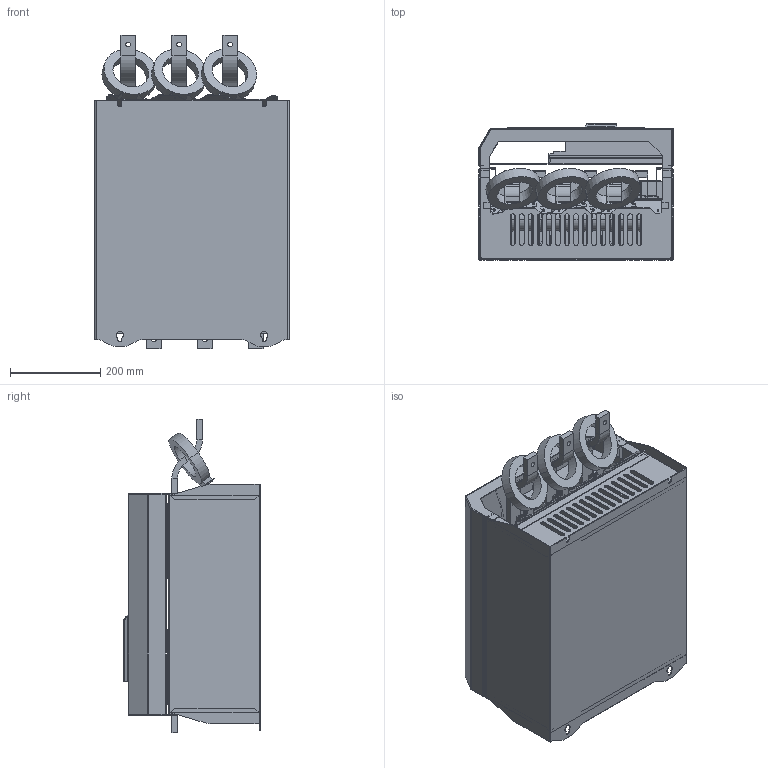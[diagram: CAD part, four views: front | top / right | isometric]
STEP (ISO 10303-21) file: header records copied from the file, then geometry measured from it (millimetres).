
FILE_DESCRIPTION (( 'STEP AP214' ), '1' );
FILE_NAME ('EMX3 G4C General Assembly, Simplified, Bot-Top, 21NOV12.STEP', '2012-11-27T00:54:45', ( '' ), ( '' ), 'SwSTEP 2.0', 'SolidWorks 2012', '' );
FILE_SCHEMA (( 'AUTOMOTIVE_DESIGN' ));
Length unit declared in the file: millimetre
Products named in the file (1): EMX3 G4C General Assembly, Simplified, Bot-Top, 21NOV12
Bounding box: 430.2 x 302.1 x 693.75 mm (x, y, z)
Volume: 14410998.1 mm3; surface area: 6509302.2 mm2
Topology: 63 solids, 63 shells, 4100 faces, 10610 edges, 6890 vertices
Faces by surface type: plane 2373, cylinder 794, bspline 733, cone 110, sphere 45, torus 45
Entity records: 189452 total; most frequent: CARTESIAN_POINT 46821, ORIENTED_EDGE 21186, DIRECTION 17729, EDGE_CURVE 10593, LINE 7005, VECTOR 7005, VERTEX_POINT 6890, AXIS2_PLACEMENT_3D 5362
